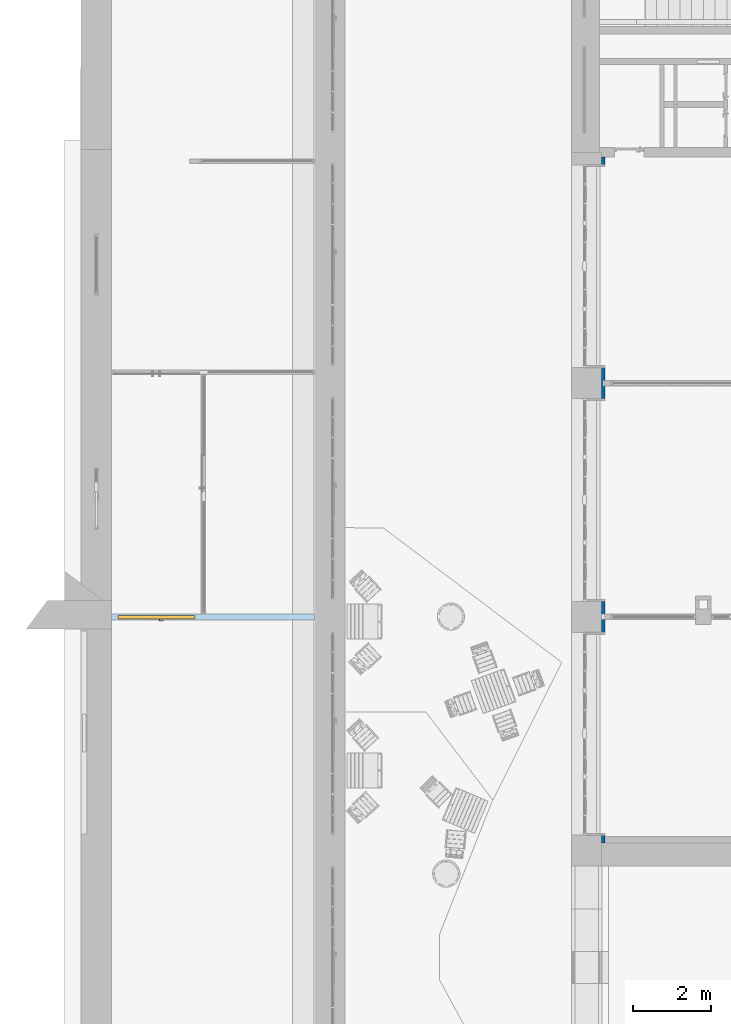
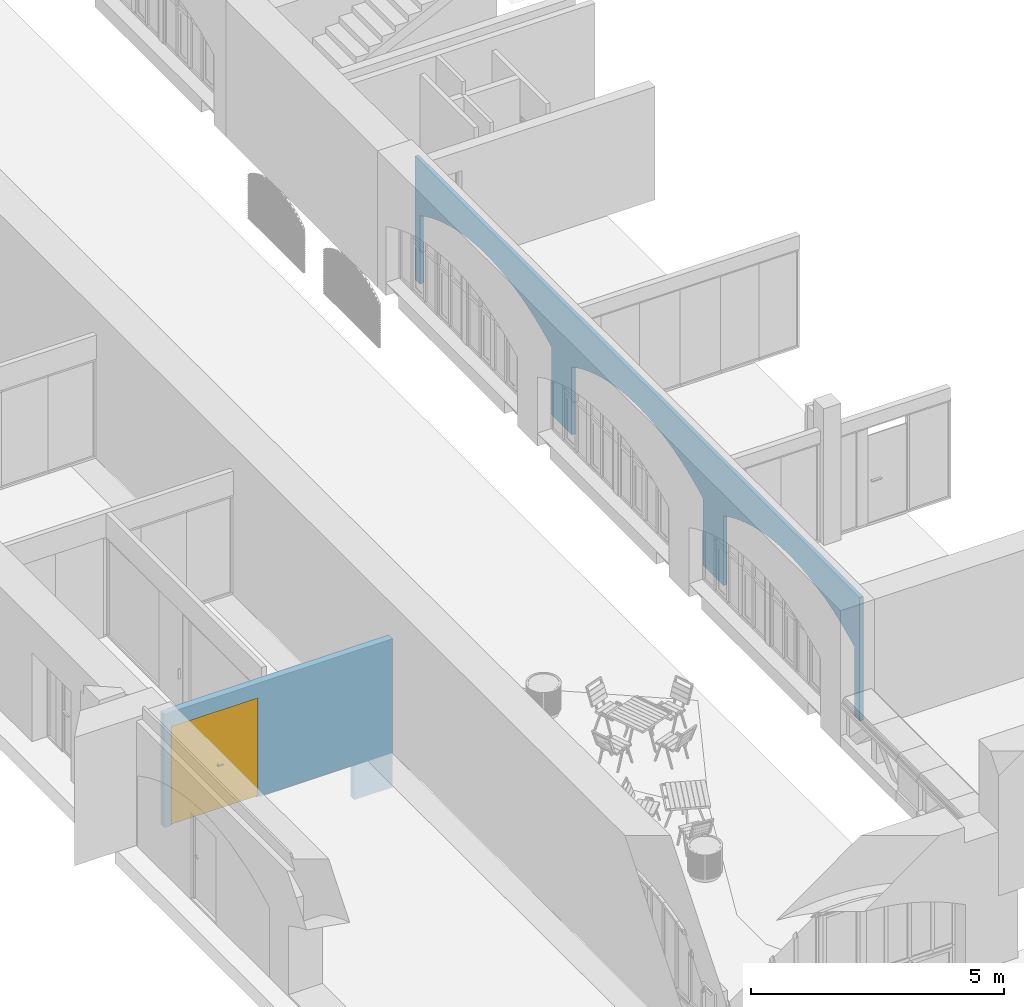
# One storey, part 78 of 88: 1 door, 1 wall, 3 openings, plus 1 element that does not belong to this part.
"""IFC2X3 building model written with IfcOpenShell, lengths in millimetres."""

from ifc_helpers import new_model, entity, si_unit, converted_unit, derived_unit, direction, frame, frame_2d, origin, place, context, subcontext, project, spatial, rectangle, extrude, faceted_brep, source, transform, mapped, material, layer, layer_set, layer_usage, type_object, type_shapes, element, fill, save


model = new_model("IFC2X3")

# Units and contexts
model_context = context("Model", 3, precision=0.01, world=origin(), true_north=direction((6.123031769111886e-17, 1.0)))
body_context = subcontext(model_context, "Body", "Model", "MODEL_VIEW")
ifc_project = project(units=[si_unit("LENGTHUNIT", "METRE", prefix="MILLI"), si_unit("AREAUNIT", "SQUARE_METRE"), si_unit("VOLUMEUNIT", "CUBIC_METRE"), converted_unit("PLANEANGLEUNIT", "DEGREE", entity("IfcPlaneAngleMeasure", 0.017453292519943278), si_unit("PLANEANGLEUNIT", "RADIAN"), dimensions=[0, 0, 0, 0, 0, 0, 0]), si_unit("MASSUNIT", "GRAM", prefix="KILO"), derived_unit("MASSDENSITYUNIT", [(si_unit("MASSUNIT", "GRAM", prefix="KILO"), 1), (si_unit("LENGTHUNIT", "METRE"), -3)]), derived_unit("IONCONCENTRATIONUNIT", [(si_unit("MASSUNIT", "GRAM", prefix="KILO"), 1), (si_unit("LENGTHUNIT", "METRE"), -3)]), derived_unit("MOMENTOFINERTIAUNIT", [(si_unit("LENGTHUNIT", "METRE"), 4)]), si_unit("TIMEUNIT", "SECOND"), si_unit("FREQUENCYUNIT", "HERTZ"), si_unit("THERMODYNAMICTEMPERATUREUNIT", "DEGREE_CELSIUS"), derived_unit("THERMALTRANSMITTANCEUNIT", [(si_unit("MASSUNIT", "GRAM", prefix="KILO"), 1), (si_unit("THERMODYNAMICTEMPERATUREUNIT", "KELVIN"), -1), (si_unit("TIMEUNIT", "SECOND"), -3)]), derived_unit("THERMALCONDUCTANCEUNIT", [(si_unit("MASSUNIT", "GRAM", prefix="KILO"), 1), (si_unit("THERMODYNAMICTEMPERATUREUNIT", "KELVIN"), -1), (si_unit("TIMEUNIT", "SECOND"), -3), (si_unit("LENGTHUNIT", "METRE"), 1)]), derived_unit("VOLUMETRICFLOWRATEUNIT", [(si_unit("LENGTHUNIT", "METRE", prefix="DECI"), 3), (si_unit("TIMEUNIT", "SECOND"), -1)]), derived_unit("MASSFLOWRATEUNIT", [(si_unit("MASSUNIT", "GRAM", prefix="KILO"), 1), (si_unit("TIMEUNIT", "SECOND"), -1)]), derived_unit("ROTATIONALFREQUENCYUNIT", [(si_unit("TIMEUNIT", "SECOND"), -1)]), si_unit("ELECTRICCURRENTUNIT", "AMPERE"), si_unit("ELECTRICVOLTAGEUNIT", "VOLT"), si_unit("POWERUNIT", "WATT"), si_unit("FORCEUNIT", "NEWTON", prefix="KILO"), si_unit("ILLUMINANCEUNIT", "LUX"), si_unit("LUMINOUSFLUXUNIT", "LUMEN"), si_unit("LUMINOUSINTENSITYUNIT", "CANDELA"), si_unit("ENERGYUNIT", "JOULE"), derived_unit("USERDEFINED", [(si_unit("MASSUNIT", "GRAM", prefix="KILO"), -1), (si_unit("LENGTHUNIT", "METRE"), -2), (si_unit("TIMEUNIT", "SECOND"), 3), (si_unit("LUMINOUSFLUXUNIT", "LUMEN"), 1)]), derived_unit("USERDEFINED", [(si_unit("MASSUNIT", "GRAM", prefix="KILO"), 1), (si_unit("TIMEUNIT", "SECOND"), -3), (si_unit("LENGTHUNIT", "METRE"), 3), (si_unit("ELECTRICCURRENTUNIT", "AMPERE"), -2)]), derived_unit("SOUNDPOWERUNIT", [(si_unit("MASSUNIT", "GRAM", prefix="KILO"), 1), (si_unit("TIMEUNIT", "SECOND"), -3), (si_unit("LENGTHUNIT", "METRE"), 2)]), derived_unit("SOUNDPRESSUREUNIT", [(si_unit("MASSUNIT", "GRAM", prefix="KILO"), 1), (si_unit("LENGTHUNIT", "METRE"), -1), (si_unit("TIMEUNIT", "SECOND"), -2)]), derived_unit("LINEARVELOCITYUNIT", [(si_unit("LENGTHUNIT", "METRE"), 1), (si_unit("TIMEUNIT", "SECOND"), -1)]), si_unit("PRESSUREUNIT", "PASCAL"), derived_unit("USERDEFINED", [(si_unit("MASSUNIT", "GRAM", prefix="KILO"), 1), (si_unit("LENGTHUNIT", "METRE"), -2), (si_unit("TIMEUNIT", "SECOND"), -2)]), derived_unit("LINEARFORCEUNIT", [(si_unit("MASSUNIT", "GRAM", prefix="KILO"), 1), (si_unit("TIMEUNIT", "SECOND"), -2)]), derived_unit("PLANARFORCEUNIT", [(si_unit("MASSUNIT", "GRAM", prefix="KILO"), 1), (si_unit("LENGTHUNIT", "METRE"), -1), (si_unit("TIMEUNIT", "SECOND"), -2)]), derived_unit("SPECIFICHEATCAPACITYUNIT", [(si_unit("THERMODYNAMICTEMPERATUREUNIT", "KELVIN"), -1), (si_unit("LENGTHUNIT", "METRE"), 2), (si_unit("TIMEUNIT", "SECOND"), -2)]), derived_unit("HEATFLUXDENSITYUNIT", [(si_unit("MASSUNIT", "GRAM", prefix="KILO"), 1), (si_unit("TIMEUNIT", "SECOND"), -3)]), derived_unit("HEATINGVALUEUNIT", [(si_unit("LENGTHUNIT", "METRE"), 2), (si_unit("TIMEUNIT", "SECOND"), -2)]), derived_unit("VAPORPERMEABILITYUNIT", [(si_unit("LENGTHUNIT", "METRE"), -1), (si_unit("TIMEUNIT", "SECOND"), 1)]), derived_unit("DYNAMICVISCOSITYUNIT", [(si_unit("MASSUNIT", "GRAM", prefix="KILO"), 1), (si_unit("TIMEUNIT", "SECOND"), -1), (si_unit("LENGTHUNIT", "METRE"), -1)]), derived_unit("THERMALEXPANSIONCOEFFICIENTUNIT", [(si_unit("THERMODYNAMICTEMPERATUREUNIT", "KELVIN"), -1)]), derived_unit("MODULUSOFELASTICITYUNIT", [(si_unit("MASSUNIT", "GRAM", prefix="KILO"), 1), (si_unit("LENGTHUNIT", "METRE"), -1), (si_unit("TIMEUNIT", "SECOND"), -2)]), derived_unit("ISOTHERMALMOISTURECAPACITYUNIT", [(si_unit("MASSUNIT", "GRAM", prefix="KILO"), -1), (si_unit("LENGTHUNIT", "METRE"), 3)]), derived_unit("MOISTUREDIFFUSIVITYUNIT", [(si_unit("TIMEUNIT", "SECOND"), -1), (si_unit("LENGTHUNIT", "METRE"), 2)]), derived_unit("MASSPERLENGTHUNIT", [(si_unit("MASSUNIT", "GRAM", prefix="KILO"), 1), (si_unit("LENGTHUNIT", "METRE"), -1)]), derived_unit("THERMALRESISTANCEUNIT", [(si_unit("MASSUNIT", "GRAM", prefix="KILO"), -1), (si_unit("TIMEUNIT", "SECOND"), 3), (si_unit("THERMODYNAMICTEMPERATUREUNIT", "KELVIN"), 1)]), derived_unit("ACCELERATIONUNIT", [(si_unit("LENGTHUNIT", "METRE"), 1), (si_unit("TIMEUNIT", "SECOND"), -2)]), derived_unit("ANGULARVELOCITYUNIT", [(si_unit("TIMEUNIT", "SECOND"), -1), (si_unit("PLANEANGLEUNIT", "RADIAN"), 1)]), derived_unit("LINEARSTIFFNESSUNIT", [(si_unit("MASSUNIT", "GRAM", prefix="KILO"), 1), (si_unit("TIMEUNIT", "SECOND"), -2)]), derived_unit("WARPINGCONSTANTUNIT", [(si_unit("LENGTHUNIT", "METRE"), 6)]), derived_unit("LINEARMOMENTUNIT", [(si_unit("MASSUNIT", "GRAM", prefix="KILO"), 1), (si_unit("LENGTHUNIT", "METRE"), 1), (si_unit("TIMEUNIT", "SECOND"), -2)]), derived_unit("TORQUEUNIT", [(si_unit("MASSUNIT", "GRAM", prefix="KILO"), 1), (si_unit("LENGTHUNIT", "METRE"), 2), (si_unit("TIMEUNIT", "SECOND"), -2)])], contexts=[model_context])

# Site, building, storey
site_placement = place(None, origin())
site = spatial("IfcSite", under=ifc_project, at=site_placement, Name="Default", CompositionType="ELEMENT")
building_placement = place(site_placement, origin())
building = spatial("IfcBuilding", under=site, at=building_placement, Name="Eesti Rahvusraamatukogu hoone renoveerimise projekteerimistööd", CompositionType="ELEMENT")
storey_placement = place(building_placement, origin())
storey = spatial("IfcBuildingStorey", under=building, at=storey_placement, Name="1. korrus", CompositionType="ELEMENT", Elevation=0.0)

# Wall, openings, door
ifc_material_1 = material(Name="EST. Müüritis. Väikeplokk. Betoon-õõnesplokk")
ifc_layer_1 = layer(ifc_material_1, 150.0)
ifc_layer_set_1 = layer_set([ifc_layer_1], Name="Basic Wall:SS-71 - 150 poorbetoon acoustic")
ifc_layer_usage = layer_usage(ifc_layer_set_1, "AXIS2", "NEGATIVE", 75.0)
wall_type_1 = type_object("IfcWallType", Name="Basic Wall:SS-71 - 150 poorbetoon acoustic", PredefinedType="STANDARD", material=ifc_layer_set_1)
wall_1_placement = place(storey_placement, frame((-43370.0, 12390.0, -840.0), z_axis=(0.0, 0.0, 1.0), x_axis=(-1.0, 0.0, 0.0)))
wall_1 = element("IfcWallStandardCase", 1, at=wall_1_placement, inside=storey, type_object=wall_type_1, material=ifc_layer_usage, Name="Basic Wall:SS-71 - 150 poorbetoon acoustic", ObjectType="Basic Wall:SS-71 - 150 poorbetoon acoustic", context=body_context, shape_type="SweptSolid", body=[
    extrude(rectangle(XDim=5210.000000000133, YDim=150.00000000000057, at=frame_2d((2605.0000000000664, -3.197442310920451e-13), x_axis=(-1.0, 0.0))), origin(), (0.0, 0.0, 1.0), 3590.000000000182),
])
opening_1_placement = place(wall_1_placement, origin())
element("IfcOpeningElement", 2, at=opening_1_placement, cuts=wall_1, Name="Basic Wall:SS-71 - 150 poorbetoon acoustic", ObjectType="Opening", context=body_context, shape_type="SweptSolid", body=[
    extrude(rectangle(XDim=840.0, YDim=4730.00000000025, at=frame_2d((-4.547473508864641e-12, 8.526512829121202e-14), x_axis=(0.0, 1.0))), frame((3235.0, 75.0, 420.0), z_axis=(0.0, -1.0, 0.0), x_axis=(-1.0, 0.0, 0.0)), (0.0, 0.0, 1.0), 150.0),
])
opening_2_placement = place(wall_1_placement, origin())
element("IfcOpeningElement", 3, at=opening_2_placement, cuts=wall_1, Name="Basic Wall:SS-71 - 150 poorbetoon acoustic", ObjectType="Opening", context=body_context, shape_type="SweptSolid", body=[
    extrude(rectangle(XDim=840.0, YDim=389.999999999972, at=frame_2d((0.0, 4.320099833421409e-12), x_axis=(1.0, 0.0))), frame((-195.0, 75.0, 420.0), z_axis=(0.0, -1.0, 0.0), x_axis=(0.0, 0.0, 1.0)), (0.0, 0.0, 1.0), 150.0),
])
opening_3_placement = place(wall_1_placement, frame((3060.0, -75.0, 840.0)))
opening_3 = element("IfcOpeningElement", 4, at=opening_3_placement, cuts=wall_1, Name="SMA_D02, 2-poolne:2000x2400mm EI30 laskuv lävep. 2:1", ObjectType="Opening", context=body_context, shape_type="SweptSolid", body=[
    extrude(rectangle(XDim=2399.999999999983, YDim=2000.0000000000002, at=frame_2d((1199.9999999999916, 1000.0000000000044), x_axis=(1.0, 0.0))), frame((0.0, 0.0, 0.0), z_axis=(0.0, 1.0, 0.0), x_axis=(0.0, 0.0, 1.0)), (0.0, 0.0, 1.0), 150.0),
])
ifc_material_2 = material(Name="EST. Metall. Plekk. Värvitud. RAL7023 (Concrete grey)")
door_style = type_object("IfcDoorStyle", Name="SMA_D02, 2-poolne:2000x2400mm EI30 laskuv lävep. 2", ConstructionType="NOTDEFINED", OperationType="DOUBLE_DOOR_SINGLE_SWING", ParameterTakesPrecedence=False, Sizeable=False, material=ifc_material_2)
shared_shape = source(origin(), body_context, "Body", "Brep", [
    faceted_brep([(845.2600518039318, 40.0, 1100.0), (750.2600518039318, 40.0, 1100.0), (750.2600518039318, 35.0, 1100.0), (870.2600518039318, 35.0, 1100.0), (870.2600518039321, 78.0, 1100.0), (845.260051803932, 78.0, 1100.0), (845.2600518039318, 40.0, 1075.0), (845.260051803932, 78.0, 1075.0), (870.2600518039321, 78.0, 1075.0), (870.2600518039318, 35.0, 1075.0), (750.2600518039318, 35.0, 1075.0), (750.2600518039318, 40.0, 1075.0)], [[[0, 1, 2, 3, 4, 5]], [[6, 7, 8, 9, 10, 11]], [[5, 7, 6, 0]], [[4, 8, 7, 5]], [[3, 9, 8, 4]], [[2, 10, 9, 3]], [[1, 11, 10, 2]], [[0, 6, 11, 1]]]),
    faceted_brep([(832.760051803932, 78.0, 1125.0), (882.7600518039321, 78.0, 1125.0), (882.7600518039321, 80.0, 1125.0), (832.7600518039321, 80.0, 1125.0), (832.7600518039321, 78.0, 1005.0), (832.7600518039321, 80.0, 1005.0), (882.7600518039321, 80.0, 1005.0), (882.7600518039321, 78.0, 1005.0)], [[[0, 1, 2, 3]], [[4, 5, 6, 7]], [[3, 5, 4, 0]], [[2, 6, 5, 3]], [[1, 7, 6, 2]], [[0, 4, 7, 1]]]),
    faceted_brep([(845.2600518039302, 170.0, 1100.0), (845.2600518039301, 132.0, 1100.0), (870.2600518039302, 132.0, 1100.0), (870.2600518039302, 175.0, 1100.0), (750.2600518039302, 175.0, 1100.0), (750.2600518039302, 170.0, 1100.0), (845.2600518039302, 170.0, 1075.0), (750.2600518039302, 170.0, 1075.0), (750.2600518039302, 175.0, 1075.0), (870.2600518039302, 175.0, 1075.0), (870.2600518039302, 132.0, 1075.0), (845.2600518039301, 132.0, 1075.0)], [[[0, 1, 2, 3, 4, 5]], [[6, 7, 8, 9, 10, 11]], [[1, 0, 6, 11]], [[2, 1, 11, 10]], [[3, 2, 10, 9]], [[4, 3, 9, 8]], [[5, 4, 8, 7]], [[0, 5, 7, 6]]]),
    faceted_brep([(832.7600518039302, 132.0, 1125.0), (832.7600518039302, 130.0, 1125.0), (882.7600518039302, 130.0, 1125.0), (882.7600518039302, 132.0, 1125.0), (832.7600518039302, 132.0, 1005.0), (882.7600518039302, 132.0, 1005.0), (882.7600518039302, 130.0, 1005.0), (832.7600518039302, 130.0, 1005.0)], [[[0, 1, 2, 3]], [[4, 5, 6, 7]], [[1, 0, 4, 7]], [[2, 1, 7, 6]], [[3, 2, 6, 5]], [[0, 3, 5, 4]]]),
    faceted_brep([(-57.23994819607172, 40.0, 0.0), (-57.23994819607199, 130.0, 0.0), (-32.23994819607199, 130.0, 0.0), (-32.23994819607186, 80.0, 0.0), (-17.23994819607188, 80.0, 0.0), (-17.239948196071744, 40.0, 0.0), (-17.239948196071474, 40.0, 2349.9999999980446), (1882.760051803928, 40.0, 2349.999999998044), (1882.760051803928, 40.0, 0.0), (1922.760051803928, 40.0, 0.0), (1922.760051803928, 40.0, 2389.9999999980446), (-57.23994819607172, 40.0, 2389.9999999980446), (-17.239948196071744, 80.0, 2349.9999999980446), (-32.23994819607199, 80.0, 2364.999999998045), (1897.7600518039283, 80.0, 2364.999999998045), (1897.760051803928, 80.0, 0.0), (1882.7600518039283, 80.0, 0.0), (1882.7600518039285, 80.0, 2349.999999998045), (-32.23994819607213, 130.0, 2364.999999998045), (-57.23994819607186, 130.0, 2389.9999999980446), (1922.7600518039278, 130.0, 2389.999999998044), (1922.7600518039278, 130.0, 0.0), (1897.7600518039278, 130.0, 0.0), (1897.7600518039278, 130.0, 2364.999999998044)], [[[0, 1, 2, 3, 4, 5]], [[5, 6, 7, 8, 9, 10, 11, 0]], [[4, 12, 6, 5]], [[3, 13, 14, 15, 16, 17, 12, 4]], [[2, 18, 13, 3]], [[1, 19, 20, 21, 22, 23, 18, 2]], [[0, 11, 19, 1]], [[9, 21, 20, 10]], [[8, 16, 15, 22, 21, 9]], [[7, 17, 16, 8]], [[14, 23, 22, 15]], [[10, 20, 19, 11]], [[6, 12, 17, 7]], [[13, 18, 23, 14]]]),
    faceted_brep([(1897.7600518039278, 80.0, 20.0), (1897.7600518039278, 80.0, 2364.999999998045), (932.7600518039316, 80.0, 2364.999999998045), (932.7600518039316, 80.0, 20.0), (1897.760051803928, 130.0, 20.0), (932.7600518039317, 130.0, 20.0), (932.7600518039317, 130.0, 2364.999999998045), (1897.760051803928, 130.0, 2364.999999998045)], [[[0, 1, 2, 3]], [[4, 5, 6, 7]], [[3, 5, 4, 0]], [[2, 6, 5, 3]], [[1, 7, 6, 2]], [[0, 4, 7, 1]]]),
    faceted_brep([(-32.23994819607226, 80.0, 2374.9999999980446), (-32.23994819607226, 80.0, 20.0), (932.7600518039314, 80.0, 20.0), (932.7600518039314, 80.0, 2374.9999999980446), (-32.23994819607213, 130.0, 2374.9999999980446), (932.7600518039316, 130.0, 2374.9999999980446), (932.7600518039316, 130.0, 20.0), (-32.23994819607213, 130.0, 20.0)], [[[0, 1, 2, 3]], [[4, 5, 6, 7]], [[3, 5, 4, 0]], [[2, 6, 5, 3]], [[1, 7, 6, 2]], [[0, 4, 7, 1]]]),
])
type_shapes(door_style, [shared_shape])
door_placement = place(opening_3_placement, frame((67.23994819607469, 0.0, 0.0)))
door = element("IfcDoor", 5, at=door_placement, inside=storey, type_object=door_style, material=ifc_material_2, Name="SMA_D02, 2-poolne:2000x2400mm EI30 laskuv lävep. 2", ObjectType="SMA_D02, 2-poolne:2000x2400mm EI30 laskuv lävep. 2", OverallHeight=2399.999999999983, OverallWidth=2000.0000000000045, context=body_context, shape_type="MappedRepresentation", body=[
    mapped(shared_shape, transform((0.0, 0.0, 0.0), scale=1.0)),
])
fill(opening_3, door)

# Wall
ifc_material_3 = material(Name="EST. Soojustus.PIR_Powerwall Pro")
ifc_layer_2 = layer(ifc_material_3, 30.0)
ifc_material_4 = material(Name="EST. Metall. Alumiinium. Mütsprofiil.")
ifc_layer_3 = layer(ifc_material_4, 42.0)
ifc_material_5 = material(Name="EST. Ehitusplaat. Kipsplaat")
ifc_layer_4 = layer(ifc_material_5, 12.5)
ifc_layer_set_2 = layer_set([ifc_layer_2, ifc_layer_3, ifc_layer_4], Name="Basic Wall:VS-03.1 - soojustus")
wall_type_2 = type_object("IfcWallType", Name="Basic Wall:VS-03.1 - soojustus", PredefinedType="STANDARD", material=ifc_layer_set_2)
wall_2_placement = place(storey_placement, frame((-35957.7499999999, 24190.0, 1650.0), z_axis=(0.0, 0.0, 1.0), x_axis=(0.0, -1.0, 0.0)))
element("IfcWall", 6, at=wall_2_placement, inside=storey, type_object=wall_type_2, Name="Basic Wall:VS-03.1 - soojustus", ObjectType="Basic Wall:VS-03.1 - soojustus", context=body_context, shape_type="Brep", body=[
    faceted_brep([(0.0, -42.24999999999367, 0.0), (200.0, -42.24999999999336, 0.0), (200.0, -42.24999999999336, 1659.5651236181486), (430.5417758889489, -42.24999999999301, 1775.1282652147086), (666.2451899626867, -42.249999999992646, 1879.7621541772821), (906.5924691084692, -42.24999999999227, 1973.2369397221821), (1151.0556389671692, -42.24999999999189, 2055.3472844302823), (1399.097683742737, -42.249999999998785, 2125.912815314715), (1650.1737258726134, -42.2499999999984, 2184.7785200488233), (1903.732222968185, -42.24999999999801, 2231.8150874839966), (2159.216179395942, -42.24999999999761, 2266.919191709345), (2416.0643698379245, -42.24999999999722, 2290.0137190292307), (2673.712572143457, -42.249999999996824, 2301.0479373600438), (2931.5948067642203, -42.249999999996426, 2299.997607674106), (3189.144580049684, -42.24999999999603, 2286.8650372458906), (3445.79612867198, -42.24999999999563, 2261.6790745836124), (3700.9856624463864, -42.24999999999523, 2224.4950460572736), (3954.152602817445, -42.24999999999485, 2175.3946343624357), (4204.740814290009, -42.24999999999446, 2114.48569908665), (4452.199826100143, -42.249999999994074, 2041.9020397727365), (4695.9860414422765, -42.2499999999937, 1957.8031019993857), (4935.563931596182, -42.24999999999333, 1862.37362712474), (5170.407212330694, -42.249999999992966, 1755.8232464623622), (5400.0, -42.24999999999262, 1638.3860207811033), (5400.0, -42.24999999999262, 0.0), (6200.0, -42.24999999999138, 0.0), (6200.0, -42.24999999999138, 1638.5472499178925), (6430.413447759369, -42.249999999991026, 1754.5397714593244), (6666.026953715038, -42.24999999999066, 1859.5678523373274), (6906.31911822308, -42.24999999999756, 1953.399071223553), (7150.75818802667, -42.249999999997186, 2035.825784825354), (7398.803232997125, -42.2499999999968, 2106.665587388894), (7649.905343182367, -42.24999999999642, 2165.7617143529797), (7903.5088435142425, -42.24999999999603, 2212.983389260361), (8159.05252348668, -42.24999999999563, 2248.2261131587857), (8415.970879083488, -42.24999999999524, 2271.4118958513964), (8673.695364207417, -42.24999999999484, 2282.4894284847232), (8931.655648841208, -42.249999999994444, 2281.4341970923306), (9189.280881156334, -42.249999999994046, 2268.2485368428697), (9446.000950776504, -42.24999999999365, 2242.9616268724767), (9701.247750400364, -42.24999999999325, 2205.6294257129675), (9954.45643299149, -42.24999999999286, 2156.3345474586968), (10205.066661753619, -42.249999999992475, 2095.1860789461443), (10452.523850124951, -42.24999999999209, 2022.3193383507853), (10696.280389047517, -42.249999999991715, 1937.8955757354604), (10935.796858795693, -42.249999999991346, 1842.101616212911), (11170.543222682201, -42.24999999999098, 1735.1494465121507), (11400.0, -42.249999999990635, 1617.2757458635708), (11400.0, -42.249999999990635, 0.0), (12200.0, -42.2499999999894, 0.0), (12200.0, -42.2499999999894, 1680.4924872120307), (12430.66819596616, -42.24999999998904, 1795.6310101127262), (12666.460176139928, -42.24999999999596, 1899.8751378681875), (12906.861743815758, -42.24999999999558, 1992.9975430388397), (13151.348650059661, -42.249999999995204, 2074.795151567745), (13399.387736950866, -42.24999999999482, 2145.089585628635), (13650.438100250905, -42.24999999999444, 2203.727552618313), (13903.952268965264, -42.249999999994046, 2250.581179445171), (14159.377399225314, -42.24999999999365, 2285.5482913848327), (14416.156479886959, -42.24999999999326, 2308.5526348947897), (14673.72954721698, -42.24999999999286, 2319.544043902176), (14931.53490601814, -42.24999999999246, 2318.4985492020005), (15189.010354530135, -42.24999999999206, 2305.4184307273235), (15445.594410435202, -42.24999999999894, 2280.3322125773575), (15700.727535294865, -42.24999999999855, 2243.294600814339), (15953.85335474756, -42.24999999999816, 2194.386364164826), (16204.419871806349, -42.24999999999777, 2133.7141578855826), (16451.880670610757, -42.249999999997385, 2061.4102911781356), (16695.696108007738, -42.24999999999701, 1977.632438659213), (16935.33449036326, -42.24999999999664, 1882.563296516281), (17170.273233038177, -42.24999999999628, 1776.4101840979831), (17400.0, -42.24999999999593, 1659.40459180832), (17400.0, -42.24999999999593, 0.0), (17600.0, -42.249999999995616, 0.0), (17600.0, -42.249999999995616, 2980.000000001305), (0.0, -42.24999999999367, 2980.000000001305), (17600.0, 42.250000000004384, 0.0), (17435.0, 42.25000000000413, 0.0), (17400.0, 42.25000000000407, 1659.4045918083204), (17600.0, 42.250000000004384, 2980.000000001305), (17400.0, 42.25000000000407, 0.0), (17170.273233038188, 42.25000000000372, 1776.4101840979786), (17435.0, 42.25000000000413, 2980.000000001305), (16935.334490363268, 42.25000000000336, 1882.5632965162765), (16695.696108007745, 42.25000000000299, 1977.6324386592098), (16451.880670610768, 42.250000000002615, 2061.410291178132), (16204.41987180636, 42.25000000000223, 2133.71415788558), (15953.85335474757, 42.25000000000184, 2194.386364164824), (15700.727535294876, 42.25000000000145, 2243.294600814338), (15445.594410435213, 42.25000000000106, 2280.3322125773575), (15189.010354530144, 42.25000000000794, 2305.4184307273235), (14931.534906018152, 42.25000000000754, 2318.4985492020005), (14673.72954721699, 42.25000000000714, 2319.544043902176), (14416.15647988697, 42.25000000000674, 2308.5526348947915), (14159.377399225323, 42.25000000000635, 2285.5482913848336), (9446.000950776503, 42.25000000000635, 2242.9616268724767), (13903.952268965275, 42.250000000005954, 2250.581179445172), (9701.247750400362, 42.249999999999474, 2205.6294257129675), (13650.438100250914, 42.25000000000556, 2203.727552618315), (9954.456432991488, 42.249999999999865, 2156.3345474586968), (13399.387736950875, 42.25000000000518, 2145.089585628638), (10205.066661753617, 42.25000000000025, 2095.1860789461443), (13151.34865005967, 42.250000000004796, 2074.795151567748), (10452.52385012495, 42.25000000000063, 2022.3193383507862), (12906.861743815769, 42.25000000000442, 1992.9975430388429), (10696.280389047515, 42.25000000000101, 1937.8955757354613), (12666.460176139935, 42.25000000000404, 1899.875137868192), (10935.796858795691, 42.25000000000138, 1842.1016162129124), (12430.66819596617, 42.25000000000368, 1795.6310101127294), (11170.5432226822, 42.25000000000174, 1735.149446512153), (12200.0, 42.250000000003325, 1680.4924872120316), (11400.0, 42.25000000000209, 1617.2757458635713), (12200.0, 42.250000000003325, 1670.0), (12200.0, 42.250000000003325, 0.0), (11400.0, 42.25000000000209, 0.0), (9189.280881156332, 42.250000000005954, 2268.2485368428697), (5872.500000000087, 42.250000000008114, 2730.000000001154), (8931.655648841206, 42.250000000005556, 2281.4341970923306), (8673.695364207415, 42.25000000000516, 2282.4894284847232), (8415.970879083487, 42.25000000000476, 2271.4118958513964), (8159.052523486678, 42.25000000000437, 2248.2261131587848), (7903.508843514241, 42.25000000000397, 2212.983389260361), (7649.905343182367, 42.25000000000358, 2165.7617143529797), (7398.803232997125, 42.2500000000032, 2106.665587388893), (7150.75818802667, 42.250000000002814, 2035.8257848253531), (6906.31911822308, 42.25000000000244, 1953.3990712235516), (5872.500000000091, 42.250000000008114, 2400.0), (6666.026953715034, 42.25000000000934, 1859.5678523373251), (6430.413447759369, 42.250000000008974, 1754.5397714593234), (6200.0, 42.25000000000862, 1638.5472499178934), (5727.500000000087, 42.250000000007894, 2400.0), (5400.0, 42.25000000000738, 1638.3860207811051), (6200.0, 42.25000000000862, 0.0), (5400.0, 42.25000000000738, 0.0), (5170.407212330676, 42.250000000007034, 1755.823246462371), (4935.5639315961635, 42.25000000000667, 1862.3736271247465), (4695.986041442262, 42.2500000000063, 1957.8031019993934), (5727.500000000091, 42.250000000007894, 2730.000000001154), (4452.199826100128, 42.250000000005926, 2041.902039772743), (4204.740814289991, 42.25000000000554, 2114.4856990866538), (3954.152602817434, 42.25000000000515, 2175.3946343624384), (3700.985662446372, 42.25000000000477, 2224.4950460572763), (3445.796128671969, 42.25000000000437, 2261.6790745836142), (3189.1445800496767, 42.25000000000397, 2286.8650372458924), (2931.594806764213, 42.250000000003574, 2299.997607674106), (0.0, 42.25000000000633, 2980.000000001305), (2673.7125721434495, 42.250000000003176, 2301.0479373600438), (2416.0643698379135, 42.25000000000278, 2290.0137190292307), (2159.2161793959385, 42.25000000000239, 2266.919191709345), (1903.7322229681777, 42.25000000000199, 2231.8150874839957), (1650.1737258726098, 42.2500000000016, 2184.7785200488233), (1399.0976837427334, 42.250000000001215, 2125.912815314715), (1151.0556389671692, 42.25000000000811, 2055.3472844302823), (906.5924691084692, 42.25000000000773, 1973.2369397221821), (666.2451899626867, 42.250000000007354, 1879.7621541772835), (430.5417758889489, 42.25000000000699, 1775.12826521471), (200.0, 42.25000000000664, 1659.5651236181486), (0.0, 42.25000000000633, 0.0), (200.0, 42.25000000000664, 0.0), (5872.500000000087, -12.249999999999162, 2400.0), (5872.500000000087, -12.249999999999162, 2730.000000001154), (5727.500000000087, -12.249999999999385, 2400.0), (5727.500000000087, -12.249999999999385, 2730.000000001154)], [[[0, 1, 2, 3, 4, 5, 6, 7, 8, 9, 10, 11, 12, 13, 14, 15, 16, 17, 18, 19, 20, 21, 22, 23, 24, 25, 26, 27, 28, 29, 30, 31, 32, 33, 34, 35, 36, 37, 38, 39, 40, 41, 42, 43, 44, 45, 46, 47, 48, 49, 50, 51, 52, 53, 54, 55, 56, 57, 58, 59, 60, 61, 62, 63, 64, 65, 66, 67, 68, 69, 70, 71, 72, 73, 74, 75]], [[76, 77, 78]], [[76, 78, 79]], [[80, 78, 77]], [[78, 81, 79]], [[81, 82, 79]], [[81, 83, 82]], [[83, 84, 82]], [[84, 85, 82]], [[82, 85, 86]], [[86, 87, 82]], [[87, 88, 82]], [[88, 89, 82]], [[89, 90, 82]], [[90, 91, 82]], [[91, 92, 82]], [[92, 93, 82]], [[82, 93, 94]], [[82, 94, 95]], [[95, 94, 96]], [[95, 96, 97]], [[97, 96, 98]], [[98, 99, 97]], [[98, 100, 99]], [[101, 99, 100]], [[101, 100, 102]], [[101, 102, 103]], [[102, 104, 103]], [[103, 104, 105]], [[104, 106, 105]], [[105, 106, 107]], [[106, 108, 107]], [[108, 109, 107]], [[109, 108, 110]], [[110, 111, 109]], [[112, 111, 110]], [[113, 111, 112]], [[111, 113, 114]], [[115, 82, 95]], [[115, 116, 82]], [[116, 115, 117]], [[118, 116, 117]], [[119, 116, 118]], [[116, 119, 120]], [[120, 121, 116]], [[116, 121, 122]], [[123, 116, 122]], [[124, 116, 123]], [[116, 124, 125]], [[126, 116, 125]], [[127, 126, 125]], [[127, 128, 126]], [[129, 126, 128]], [[130, 126, 129]], [[131, 130, 129]], [[132, 131, 129]], [[132, 133, 131]], [[130, 131, 134]], [[135, 130, 134]], [[136, 130, 135]], [[130, 136, 137]], [[138, 137, 136]], [[139, 137, 138]], [[140, 137, 139]], [[140, 141, 137]], [[142, 137, 141]], [[143, 137, 142]], [[137, 143, 144]], [[144, 145, 137]], [[144, 146, 145]], [[147, 145, 146]], [[147, 148, 145]], [[145, 148, 149]], [[149, 150, 145]], [[150, 151, 145]], [[151, 152, 145]], [[152, 153, 145]], [[153, 154, 145]], [[155, 145, 154]], [[155, 156, 145]], [[156, 157, 145]], [[156, 158, 157]], [[116, 137, 145]], [[116, 145, 82]], [[126, 159, 160, 116]], [[161, 130, 137, 162]], [[130, 161, 159, 126]], [[162, 137, 116, 160]], [[157, 0, 75, 145]], [[1, 0, 157, 158]], [[25, 24, 133, 132]], [[49, 48, 114, 113]], [[73, 72, 80, 77, 76]], [[74, 73, 76, 79]], [[75, 74, 79, 82, 145]], [[162, 160, 159, 161]], [[5, 4, 154, 153]], [[3, 2, 156, 155]], [[3, 155, 154, 4]], [[6, 5, 153, 152]], [[10, 9, 149, 148]], [[11, 10, 148, 147]], [[8, 7, 151, 150]], [[9, 8, 150, 149]], [[6, 152, 151, 7]], [[12, 11, 147, 146]], [[146, 144, 13, 12]], [[16, 15, 142, 141]], [[14, 13, 144, 143]], [[14, 143, 142, 15]], [[17, 16, 141, 140]], [[21, 20, 136, 135]], [[22, 21, 135, 134]], [[19, 18, 139, 138]], [[20, 19, 138, 136]], [[17, 140, 139, 18]], [[23, 22, 134, 131]], [[29, 28, 127, 125]], [[27, 26, 129, 128]], [[27, 128, 127, 28]], [[30, 29, 125, 124]], [[34, 33, 121, 120]], [[35, 34, 120, 119]], [[32, 31, 123, 122]], [[33, 32, 122, 121]], [[30, 124, 123, 31]], [[36, 35, 119, 118]], [[118, 117, 37, 36]], [[40, 39, 95, 97]], [[38, 37, 117, 115]], [[38, 115, 95, 39]], [[41, 40, 97, 99]], [[45, 44, 105, 107]], [[46, 45, 107, 109]], [[43, 42, 101, 103]], [[44, 43, 103, 105]], [[41, 99, 101, 42]], [[47, 46, 109, 111]], [[53, 52, 106, 104]], [[51, 50, 110, 108]], [[51, 108, 106, 52]], [[54, 53, 104, 102]], [[58, 57, 96, 94]], [[59, 58, 94, 93]], [[56, 55, 100, 98]], [[57, 56, 98, 96]], [[54, 102, 100, 55]], [[60, 59, 93, 92]], [[92, 91, 61, 60]], [[64, 63, 89, 88]], [[62, 61, 91, 90]], [[62, 90, 89, 63]], [[65, 64, 88, 87]], [[69, 68, 84, 83]], [[70, 69, 83, 81]], [[67, 66, 86, 85]], [[68, 67, 85, 84]], [[65, 87, 86, 66]], [[71, 70, 81, 78]], [[50, 49, 113, 112, 110]], [[80, 72, 71, 78]], [[114, 48, 47, 111]], [[26, 25, 132, 129]], [[133, 24, 23, 131]], [[1, 158, 156, 2]]]),
])

save(model, "model.ifc")
